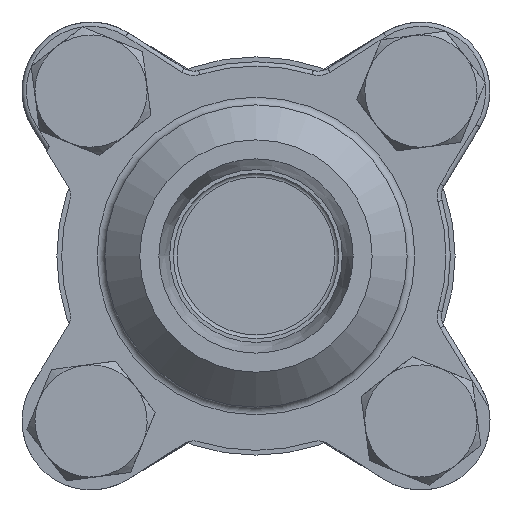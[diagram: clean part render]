
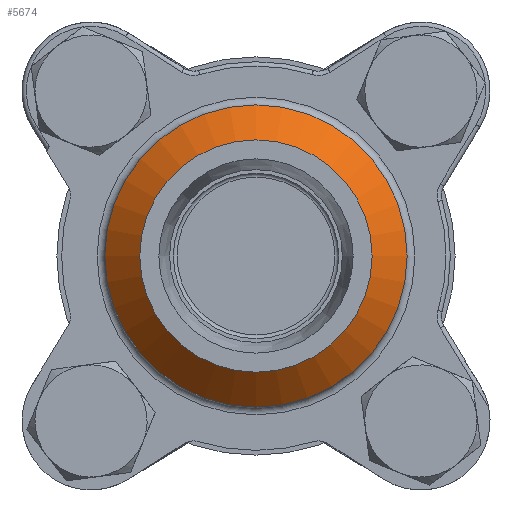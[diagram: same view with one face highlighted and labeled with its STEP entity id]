
A CAD part, left-side view. The second image highlights one B-rep face of the part: STEP entity #5674.
In plain terms, the highlighted conical face has half-angle 45 degrees and reference radius 17.5 mm.
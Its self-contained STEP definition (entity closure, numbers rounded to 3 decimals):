
#124=CONICAL_SURFACE('',#6293,17.5,0.785);
#2466=ORIENTED_EDGE('',*,*,#3468,.T.);
#2467=ORIENTED_EDGE('',*,*,#3467,.F.);
#3467=EDGE_CURVE('',#4064,#4064,#4354,.T.);
#3468=EDGE_CURVE('',#4065,#4065,#4355,.T.);
#4064=VERTEX_POINT('',#14526);
#4065=VERTEX_POINT('',#14529);
#4354=CIRCLE('',#6292,17.5);
#4355=CIRCLE('',#6294,13.45);
#4761=EDGE_LOOP('',(#2466));
#4762=EDGE_LOOP('',(#2467));
#5205=FACE_BOUND('',#4761,.T.);
#5206=FACE_BOUND('',#4762,.T.);
#5674=ADVANCED_FACE('',(#5205,#5206),#124,.T.);
#6292=AXIS2_PLACEMENT_3D('',#14525,#7719,#7720);
#6293=AXIS2_PLACEMENT_3D('',#14527,#7721,#7722);
#6294=AXIS2_PLACEMENT_3D('',#14528,#7723,#7724);
#7719=DIRECTION('',(-1.,0.,0.));
#7720=DIRECTION('',(0.,0.,1.));
#7721=DIRECTION('',(-1.,0.,0.));
#7722=DIRECTION('',(0.,0.,1.));
#7723=DIRECTION('',(-1.,0.,0.));
#7724=DIRECTION('',(0.,0.,1.));
#14525=CARTESIAN_POINT('',(3.95,0.,-13.55));
#14526=CARTESIAN_POINT('',(3.95,0.,3.95));
#14527=CARTESIAN_POINT('',(3.95,0.,-13.55));
#14528=CARTESIAN_POINT('',(8.,0.,-13.55));
#14529=CARTESIAN_POINT('',(8.,0.,-0.1));
